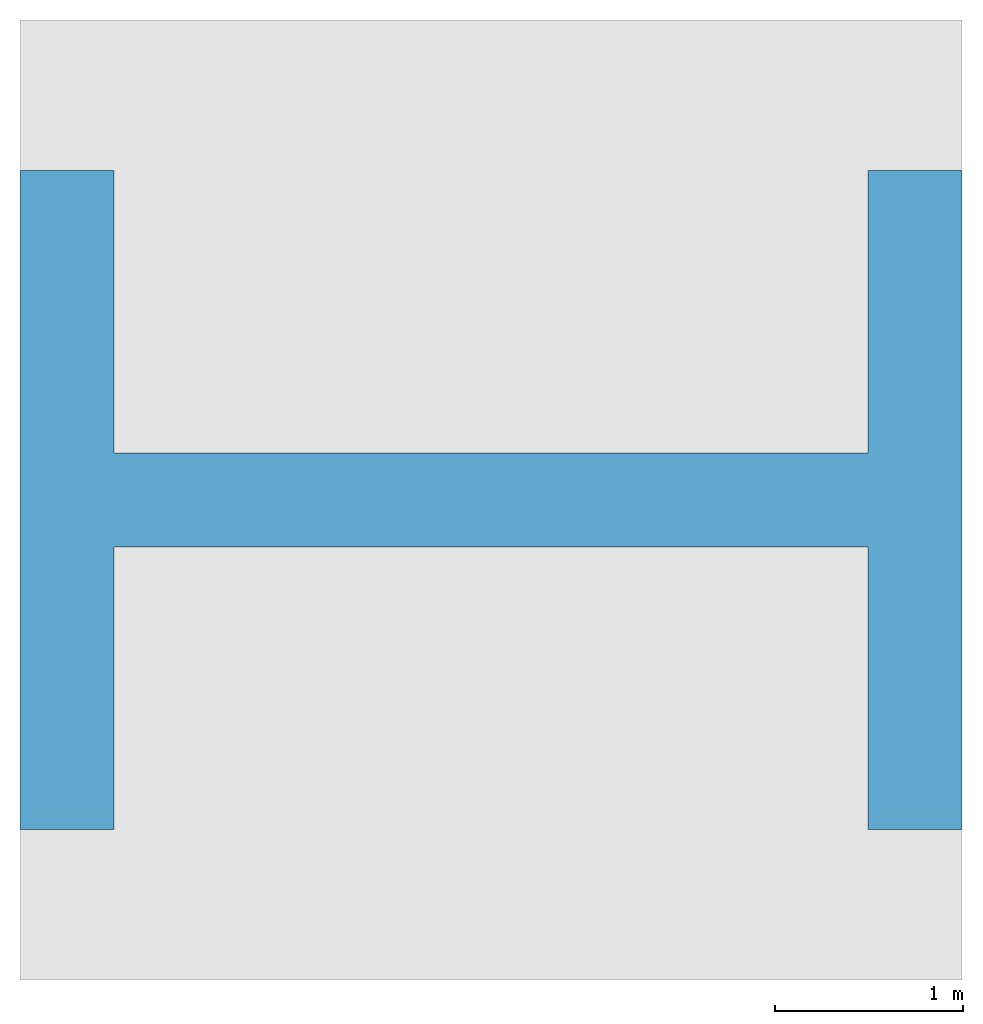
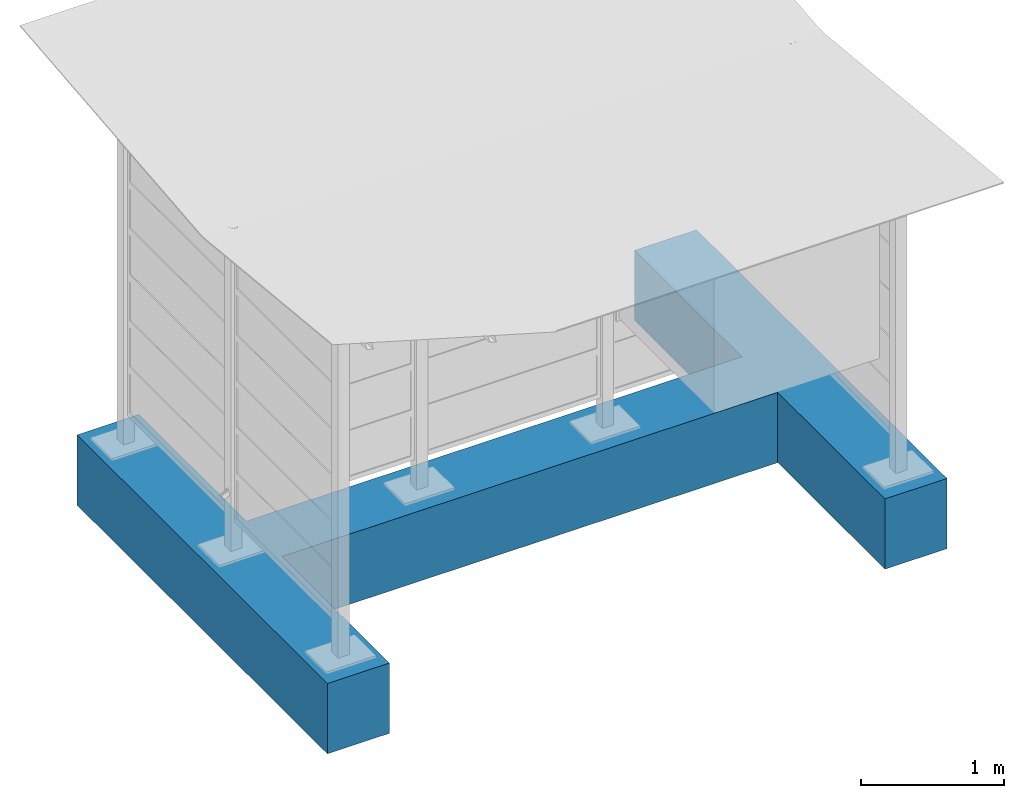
# One storey, incomplete: 1 slab.
"""IFC4 building model written with IfcOpenShell, lengths in metres."""

import ifcopenshell
import ifcopenshell.guid

model = None  # the IFC model being written
_history = None  # IfcOwnerHistory: only IFC2X3 demands one
_inside = {}  # id of a spatial element -> (the spatial element, [elements in it])
_under = {}  # id of a project, library or spatial element -> (it, [spatial elements below it])
_declared = {}  # id of a project -> (the project, [libraries it declares])
_typed = {}  # id of a type object -> (the type object, [elements of that type])
_made_of = {}  # id of a material, layer set ... -> (it, [elements and type objects made of it])


def new_model(schema):
    """Start an empty IFC model of exactly this schema.

    Asked for "IFC4X3", IfcOpenShell would pick the latest addendum, in which some entities
    have other attributes; the version numbers below select the first issue.
    IFC2X3 requires an IfcOwnerHistory on every rooted entity: one is made here for all.
    """
    global model, _history
    if schema == "IFC4X3":
        model = ifcopenshell.file(schema_version=(4, 3, 0, 0))
    else:
        model = ifcopenshell.file(schema=schema)
    _inside.clear()
    _under.clear()
    _declared.clear()
    _typed.clear()
    _made_of.clear()
    _history = None
    if model.schema == "IFC2X3":
        org = make("IfcOrganization", Name="unknown")
        user = make(
            "IfcPersonAndOrganization",
            ThePerson=make("IfcPerson", FamilyName="unknown"),
            TheOrganization=org,
        )
        app = make(
            "IfcApplication",
            ApplicationDeveloper=org,
            Version="unknown",
            ApplicationFullName="unknown",
            ApplicationIdentifier="unknown",
        )
        _history = make(
            "IfcOwnerHistory",
            OwningUser=user,
            OwningApplication=app,
            ChangeAction="ADDED",
            CreationDate=0,
        )
    return model


def make(cls, **values):
    """One entity of the class cls with the attributes given. An attribute that is None is left unset."""
    return model.create_entity(
        cls, **{name: value for name, value in values.items() if value is not None}
    )


def entity(cls, *values):
    """Any entity or typed value of the class cls, its attributes in the order of the schema. None: left unset."""
    e = model.create_entity(cls)
    for i, value in enumerate(values):
        if value is not None:
            e[i] = value
    return e


def rooted(cls, **values):
    """An entity with a GlobalId (a new one), such as an element, a storey or a relation."""
    return make(cls, GlobalId=ifcopenshell.guid.new(), OwnerHistory=_history, **values)


def si_unit(unit_type, name, prefix=None):
    """IfcSIUnit, for example si_unit("LENGTHUNIT", "METRE", prefix="MILLI")."""
    return make("IfcSIUnit", UnitType=unit_type, Prefix=prefix, Name=name)


def converted_unit(unit_type, name, factor, base, dimensions=None, offset=None):
    """IfcConversionBasedUnit, such as the inch: factor (a typed value) times the base unit."""
    return make(
        "IfcConversionBasedUnit"
        if offset is None
        else "IfcConversionBasedUnitWithOffset",
        ConversionOffset=offset,
        Dimensions=None
        if dimensions is None
        else entity("IfcDimensionalExponents", *dimensions),
        UnitType=unit_type,
        Name=name,
        ConversionFactor=make(
            "IfcMeasureWithUnit", ValueComponent=factor, UnitComponent=base
        ),
    )


def assignment(units):
    """IfcUnitAssignment: the units of a project."""
    return None if units is None else make("IfcUnitAssignment", Units=units)


def point(xyz):
    """IfcCartesianPoint."""
    return None if xyz is None else make("IfcCartesianPoint", Coordinates=xyz)


def direction(xyz):
    """IfcDirection."""
    return None if xyz is None else make("IfcDirection", DirectionRatios=xyz)


def frame(location, z_axis=None, x_axis=None):
    """IfcAxis2Placement3D, a coordinate frame: its origin and axes. An axis left out is left unset."""
    return make(
        "IfcAxis2Placement3D",
        Location=point(location),
        Axis=direction(z_axis),
        RefDirection=direction(x_axis),
    )


def origin():
    """The frame at (0, 0, 0) with its axes left unset."""
    return frame((0.0, 0.0, 0.0))


def place(relative_to, where):
    """IfcLocalPlacement: puts the frame where relative to a parent placement (None: the world)."""
    return make(
        "IfcLocalPlacement", PlacementRelTo=relative_to, RelativePlacement=where
    )


def context(
    kind, dimensions, precision=None, world=None, true_north=None, identifier=None
):
    """IfcGeometricRepresentationContext, for example the 3D "Model" context."""
    return make(
        "IfcGeometricRepresentationContext",
        ContextIdentifier=identifier,
        ContextType=kind,
        CoordinateSpaceDimension=dimensions,
        Precision=precision,
        WorldCoordinateSystem=world,
        TrueNorth=true_north,
    )


def subcontext(parent, identifier, kind, view, scale=None):
    """IfcGeometricRepresentationSubContext, for example "Body" below "Model"."""
    return make(
        "IfcGeometricRepresentationSubContext",
        ContextIdentifier=identifier,
        ContextType=kind,
        ParentContext=parent,
        TargetScale=scale,
        TargetView=view,
    )


def project(units=None, contexts=None):
    """IfcProject with its units and contexts."""
    return rooted(
        "IfcProject",
        Name="project",
        RepresentationContexts=contexts,
        UnitsInContext=assignment(units),
    )


def spatial(cls, under=None, at=None, **own):
    """A site, building, storey or space (cls), placed at a placement, below another one or the project."""
    s = rooted(cls, ObjectPlacement=at, **own)
    if under is not None:
        _under.setdefault(under.id(), (under, []))[1].append(s)
    return s


def polyline(points):
    """IfcPolyline through the points."""
    return make("IfcPolyline", Points=[point(p) for p in points])


def outline(outer, holes=None, kind="AREA"):
    """IfcArbitraryClosedProfileDef: a profile drawn as a closed curve; with holes, ...WithVoids."""
    if holes is None:
        return make("IfcArbitraryClosedProfileDef", ProfileType=kind, OuterCurve=outer)
    return make(
        "IfcArbitraryProfileDefWithVoids",
        ProfileType=kind,
        OuterCurve=outer,
        InnerCurves=holes,
    )


def extrude(swept, where, along, depth):
    """IfcExtrudedAreaSolid: the profile swept, set in the frame where, extruded along a direction by depth."""
    return make(
        "IfcExtrudedAreaSolid",
        SweptArea=swept,
        Position=where,
        ExtrudedDirection=direction(along),
        Depth=depth,
    )


def shape(context_of_items, identifier, shape_type, items):
    """IfcShapeRepresentation: the items that make up one representation, for example the "Body"."""
    return make(
        "IfcShapeRepresentation",
        ContextOfItems=context_of_items,
        RepresentationIdentifier=identifier,
        RepresentationType=shape_type,
        Items=items,
    )


def material(Name=None, Category=None):
    """IfcMaterial."""
    return make("IfcMaterial", Name=Name, Category=Category)


def made_of(thing, what):
    """Note that an element or type object is made of a material, layer set ...; save() writes the relation."""
    if what is not None:
        _made_of.setdefault(what.id(), (what, []))[1].append(thing)
    return thing


def type_object(cls, material=None, **own):
    """A type object (cls), such as IfcWallType, which elements share."""
    return made_of(rooted(cls, **own), material)


def element(
    cls,
    number,
    at=None,
    inside=None,
    cuts=None,
    type_object=None,
    material=None,
    context=None,
    identifier="Body",
    shape_type=None,
    held_by="IfcProductDefinitionShape",
    body=None,
    shapes=None,
    **own,
):
    """One element of the class cls, such as IfcWall. Its Tag is "e" and its number.

    at: its placement. inside: the storey or other place that contains it. cuts: it is an
    opening in that element (IfcRelVoidsElement). A single representation is given by context,
    identifier, shape_type and body (its items); several are given by shapes. held_by: the class
    of the entity that holds the representations. save() writes the other relations.
    """
    e = rooted(cls, Tag="e%d" % number, ObjectPlacement=at, **own)
    if body is not None:
        shapes = [shape(context, identifier, shape_type, body)]
    if shapes is not None:
        e.Representation = make(held_by, Representations=shapes)
    if inside is not None:
        _inside.setdefault(inside.id(), (inside, []))[1].append(e)
    if cuts is not None:
        rooted(
            "IfcRelVoidsElement", RelatingBuildingElement=cuts, RelatedOpeningElement=e
        )
    if type_object is not None:
        _typed.setdefault(type_object.id(), (type_object, []))[1].append(e)
    return made_of(e, material)


def aggregate(whole, parts):
    """IfcRelAggregates: a whole, such as a stair, and the parts it consists of."""
    return rooted("IfcRelAggregates", RelatingObject=whole, RelatedObjects=parts)


def save(model, path):
    """Write the relations noted so far, then the file.

    IfcRelAggregates (storeys below a building ...), IfcRelContainedInSpatialStructure (elements
    in a storey), IfcRelDefinesByType, IfcRelAssociatesMaterial and IfcRelDeclares: one each for
    every whole, place, type object, material and project.
    """
    for whole, parts in _under.values():
        aggregate(whole, parts)
    for where, things in _inside.values():
        rooted(
            "IfcRelContainedInSpatialStructure",
            RelatedElements=things,
            RelatingStructure=where,
        )
    for kind, things in _typed.values():
        rooted("IfcRelDefinesByType", RelatedObjects=things, RelatingType=kind)
    for what, things in _made_of.values():
        rooted("IfcRelAssociatesMaterial", RelatedObjects=things, RelatingMaterial=what)
    for by, libraries in _declared.values():
        rooted("IfcRelDeclares", RelatingContext=by, RelatedDefinitions=libraries)
    model.write(path)


model = new_model("IFC4")

# Units and contexts
model_context = context("Model", 3, precision=1e-05, world=origin(), true_north=direction((6.123031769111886e-17, 1.0)))
body_context = subcontext(model_context, "Body", "Model", "MODEL_VIEW")
ifc_project = project(units=[si_unit("LENGTHUNIT", "METRE"), converted_unit("PLANEANGLEUNIT", "DEGREE", entity("IfcPlaneAngleMeasure", 0.017453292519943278), si_unit("PLANEANGLEUNIT", "RADIAN"), dimensions=[0, 0, 0, 0, 0, 0, 0]), si_unit("AREAUNIT", "SQUARE_METRE")], contexts=[model_context])

# Site, building, storey
site_placement = place(None, origin())
site = spatial("IfcSite", under=ifc_project, at=site_placement, Name="Default", CompositionType="ELEMENT")
building_placement = place(site_placement, origin())
building = spatial("IfcBuilding", under=site, at=building_placement, CompositionType="ELEMENT")
storey_placement = place(building_placement, origin())
storey = spatial("IfcBuildingStorey", under=building, at=storey_placement, Name="Ebene 0", CompositionType="ELEMENT", Elevation=0.0)

# Slab
ifc_material = material(Name="DB_Ortbeton", Category="DB_Beton")
slab_type = type_object("IfcSlabType", Name="DB_Wetterschutzhaus_H-Form_3-feldrig_Fundament:DB_Wetterschutzhaus_H-Form_3-feldrig_Fundament", PredefinedType="BASESLAB", material=ifc_material)
slab_placement = place(storey_placement, origin())
element("IfcSlab", 1, at=slab_placement, inside=storey, type_object=slab_type, Name="DB_Wetterschutzhaus_H-Form_3-feldrig_Fundament:DB_Wetterschutzhaus_H-Form_3-feldrig_Fundament", ObjectType="DB_Wetterschutzhaus_H-Form_3-feldrig_Fundament:DB_Wetterschutzhaus_H-Form_3-feldrig_Fundament", PredefinedType="BASESLAB", context=body_context, shape_type="SweptSolid", body=[
    extrude(outline(polyline([(-1.7857142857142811, -2.0), (-1.785714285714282, -2.500000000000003), (0.2142857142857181, -2.500000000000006), (1.7142857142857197, -2.500000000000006), (1.714285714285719, -2.0), (0.2142857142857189, -2.0), (0.2142857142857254, 2.0), (1.7142857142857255, 2.0), (1.7142857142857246, 2.500000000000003), (0.2142857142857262, 2.500000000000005), (-1.7857142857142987, 2.5000000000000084), (-1.7857142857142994, 2.0), (-0.28571428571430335, 2.0), (-0.28571428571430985, -2.0), (-1.7857142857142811, -2.0)])), frame((2.2500000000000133, 1.5357142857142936, 0.0), z_axis=(0.0, 0.0, -1.0), x_axis=(0.0, 1.0, 0.0)), (0.0, 0.0, -1.0), 0.6000000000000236),
])

save(model, "model.ifc")
